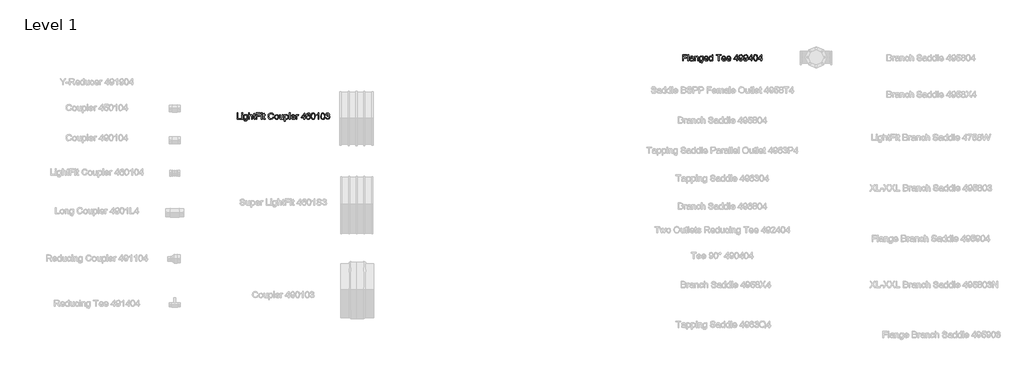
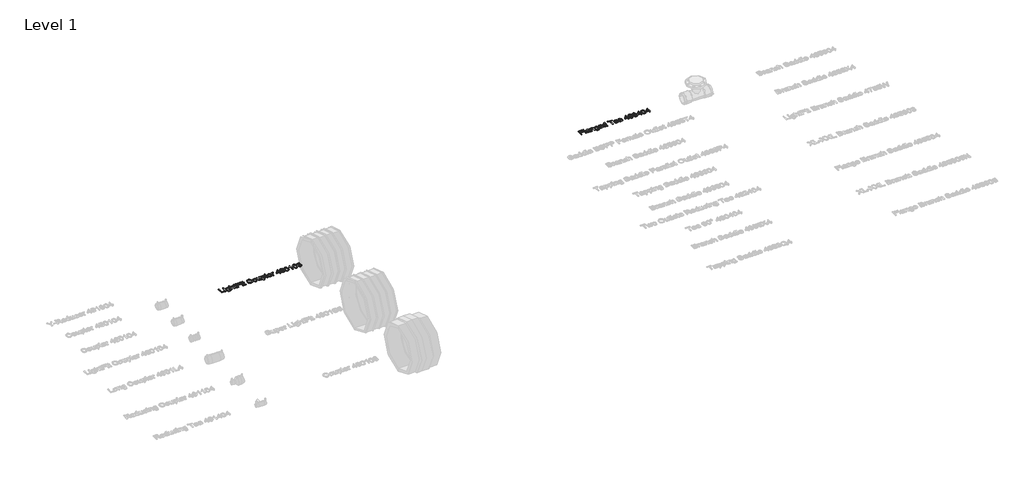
# One storey, part 7 of 38: 2 proxies.
"""IFC4 building model written with IfcOpenShell, lengths in millimetres."""

from ifc_helpers import new_model, si_unit, origin, origin_with_axes, place, context, project, spatial, polyline, outline, extrude, element, save

model = new_model("IFC4")

# Units and contexts
model_context = context("Model", 3, world=origin())
ifc_project = project(units=[si_unit("LENGTHUNIT", "METRE", prefix="MILLI")], contexts=[model_context])

# Site, building, storey
site = spatial("IfcSite", under=ifc_project)
building = spatial("IfcBuilding", under=site)
storey = spatial("IfcBuildingStorey", under=building, Name="Level 1", Elevation=0.0)

# Proxies
placement = place(None, origin())
element("IfcBuildingElementProxy", 1, Name="100 mm Arial", ObjectType="100 mm Arial", at=placement, inside=storey, context=model_context, shape_type="SweptSolid", body=[
    extrude(outline(polyline([(2545.1202247, 4394.3643675), (2545.1202247, 4453.4412905), (2552.5048401, 4453.4412905), (2552.5048401, 4401.7489828), (2582.0433016, 4401.7489828), (2582.0433016, 4394.3643675), (2545.1202247, 4394.3643675)])), origin_with_axes(), (0.0, 0.0, 1.0), 5.0),
    extrude(outline(polyline([(2589.427917, 4446.0566752), (2589.427917, 4453.4412905), (2596.8125324, 4453.4412905), (2596.8125324, 4446.0566752), (2589.427917, 4446.0566752)])), origin_with_axes(), (0.0, 0.0, 1.0), 5.0),
    extrude(outline(polyline([(2589.427917, 4394.3643675), (2589.427917, 4437.7489828), (2596.8125324, 4437.7489828), (2596.8125324, 4394.3643675), (2589.427917, 4394.3643675)])), origin_with_axes(), (0.0, 0.0, 1.0), 5.0),
    extrude(outline(polyline([(2606.0433016, 4390.6720598), (2613.427917, 4389.7489828), (2615.8221478, 4385.8547521), (2622.990417, 4384.2105213), (2630.5481093, 4386.0710982), (2634.1538786, 4391.2922521), (2634.6586863, 4399.902829), (2623.1202247, 4394.3643675), (2615.506643, 4395.9761463), (2609.8293593, 4400.8114828), (2605.1202247, 4416.2730213), (2607.2332055, 4427.7177328), (2613.3485901, 4435.8162905), (2622.7596478, 4438.6720598), (2629.3473882, 4437.0566752), (2634.6586863, 4432.2105213), (2634.6586863, 4437.7489828), (2642.0433016, 4437.7489828), (2642.0433016, 4400.2922521), (2640.0240709, 4385.9485021), (2633.6274363, 4379.277829), (2622.8461863, 4376.8259059), (2610.5649363, 4380.2802328), (2606.0433016, 4390.6720598)]), holes=[polyline([(2612.5048401, 4416.777829), (2615.6562824, 4405.3475405), (2623.5673401, 4401.7489828), (2631.4639747, 4405.3259059), (2634.6586863, 4416.5614828), (2631.3702247, 4427.5735021), (2623.4519555, 4431.2874444), (2615.6995516, 4427.6311944), (2612.5048401, 4416.777829)])]), origin_with_axes(), (0.0, 0.0, 1.0), 5.0),
    extrude(outline(polyline([(2653.1202247, 4394.3643675), (2653.1202247, 4453.4412905), (2660.5048401, 4453.4412905), (2660.5048401, 4431.7201367), (2666.2632536, 4436.934079), (2673.3558016, 4438.6720598), (2681.6490709, 4436.7754252), (2686.6827247, 4431.5326367), (2688.1971478, 4421.8259059), (2688.1971478, 4394.3643675), (2680.8125324, 4394.3643675), (2680.8125324, 4421.0614828), (2678.4615709, 4428.8499444), (2671.7981093, 4431.2874444), (2665.7476286, 4429.6432136), (2661.709167, 4425.1864828), (2660.5048401, 4417.4124444), (2660.5048401, 4394.3643675), (2653.1202247, 4394.3643675)])), origin_with_axes(), (0.0, 0.0, 1.0), 5.0),
    extrude(outline(polyline([(2714.0433016, 4400.5230213), (2714.9663786, 4394.1480213), (2709.4423401, 4393.4412905), (2703.2548401, 4394.6672521), (2700.1683016, 4397.8835982), (2699.2740709, 4406.2634059), (2699.2740709, 4430.3643675), (2693.7356093, 4430.3643675), (2693.7356093, 4437.7489828), (2699.2740709, 4437.7489828), (2699.2740709, 4448.2922521), (2706.6586863, 4452.6335982), (2706.6586863, 4437.7489828), (2714.0433016, 4437.7489828), (2714.0433016, 4430.3643675), (2706.6586863, 4430.3643675), (2706.6586863, 4406.4797521), (2707.0481093, 4402.6720598), (2708.3101286, 4401.3235021), (2710.8269555, 4400.8259059), (2714.0433016, 4400.5230213)])), origin_with_axes(), (0.0, 0.0, 1.0), 5.0),
    extrude(outline(polyline([(2722.3509939, 4394.3643675), (2722.3509939, 4453.4412905), (2762.0433016, 4453.4412905), (2762.0433016, 4446.0566752), (2729.7356093, 4446.0566752), (2729.7356093, 4428.5182136), (2757.427917, 4428.5182136), (2757.427917, 4421.1335982), (2729.7356093, 4421.1335982), (2729.7356093, 4394.3643675), (2722.3509939, 4394.3643675)])), origin_with_axes(), (0.0, 0.0, 1.0), 5.0),
    extrude(outline(polyline([(2771.2740709, 4394.3643675), (2771.2740709, 4437.7489828), (2778.6586863, 4437.7489828), (2778.6586863, 4394.3643675), (2771.2740709, 4394.3643675)])), origin_with_axes(), (0.0, 0.0, 1.0), 5.0),
    extrude(outline(polyline([(2771.2740709, 4446.0566752), (2771.2740709, 4453.4412905), (2778.6586863, 4453.4412905), (2778.6586863, 4446.0566752), (2771.2740709, 4446.0566752)])), origin_with_axes(), (0.0, 0.0, 1.0), 5.0),
    extrude(outline(polyline([(2805.427917, 4400.5230213), (2806.3509939, 4394.1480213), (2800.8269555, 4393.4412905), (2794.6394555, 4394.6672521), (2791.552917, 4397.8835982), (2790.6586863, 4406.2634059), (2790.6586863, 4430.3643675), (2785.1202247, 4430.3643675), (2785.1202247, 4437.7489828), (2790.6586863, 4437.7489828), (2790.6586863, 4448.2922521), (2798.0433016, 4452.6335982), (2798.0433016, 4437.7489828), (2805.427917, 4437.7489828), (2805.427917, 4430.3643675), (2798.0433016, 4430.3643675), (2798.0433016, 4406.4797521), (2798.4327247, 4402.6720598), (2799.6947439, 4401.3235021), (2802.2115709, 4400.8259059), (2805.427917, 4400.5230213)])), origin_with_axes(), (0.0, 0.0, 1.0), 5.0),
    extrude(outline(polyline([(2878.3509939, 4415.3643675), (2885.7356093, 4413.4605213), (2876.9808016, 4398.5686944), (2861.5192632, 4393.4412905), (2846.1514747, 4397.3210982), (2837.1370516, 4408.5566752), (2834.0433016, 4424.3499444), (2837.5408978, 4440.402829), (2847.4856093, 4450.809079), (2861.677917, 4454.3643675), (2876.4687824, 4449.7634059), (2884.8125324, 4436.8114828), (2877.427917, 4435.0518675), (2871.3702247, 4444.1311944), (2861.3894555, 4446.9797521), (2849.8365709, 4443.8210982), (2843.3101286, 4435.340329), (2841.427917, 4424.3643675), (2843.6562824, 4411.6432136), (2850.5937824, 4403.5158098), (2860.7836863, 4400.8259059), (2872.084167, 4404.4893675), (2878.3509939, 4415.3643675)])), origin_with_axes(), (0.0, 0.0, 1.0), 5.0),
    extrude(outline(polyline([(2893.1202247, 4416.0566752), (2894.7175805, 4426.5170117), (2899.5096478, 4433.8691752), (2912.5192632, 4438.6720598), (2920.2770757, 4437.2099203), (2926.4735901, 4432.8235021), (2930.5354891, 4425.8589588), (2931.8894555, 4416.6624444), (2929.4952247, 4403.5230213), (2922.521667, 4396.0879252), (2912.5192632, 4393.4412905), (2904.6677007, 4394.8980213), (2898.4783978, 4399.2682136), (2894.459768, 4406.3787905), (2893.1202247, 4416.0566752)]), holes=[polyline([(2900.5048401, 4416.0710982), (2903.9231093, 4404.6263867), (2912.5192632, 4400.8259059), (2921.0865709, 4404.6480213), (2924.5048401, 4416.3018675), (2921.0649363, 4427.4869636), (2912.5192632, 4431.2874444), (2903.9231093, 4427.5013867), (2900.5048401, 4416.0710982)])]), origin_with_axes(), (0.0, 0.0, 1.0), 5.0),
    extrude(outline(polyline([(2967.8894555, 4394.3643675), (2967.8894555, 4401.8210982), (2962.1058016, 4395.5362425), (2954.5625324, 4393.4412905), (2947.6178209, 4394.9124444), (2942.8293593, 4398.6047521), (2940.6298401, 4404.0422521), (2940.1971478, 4410.9076367), (2940.1971478, 4437.7489828), (2947.5817632, 4437.7489828), (2947.5817632, 4414.3835982), (2948.0288786, 4406.8547521), (2950.9495516, 4402.434079), (2956.4519555, 4400.8259059), (2962.6178209, 4402.4701367), (2966.6923401, 4406.9485021), (2967.8894555, 4415.1768675), (2967.8894555, 4437.7489828), (2975.2740709, 4437.7489828), (2975.2740709, 4394.3643675), (2967.8894555, 4394.3643675)])), origin_with_axes(), (0.0, 0.0, 1.0), 5.0),
    extrude(outline(polyline([(2985.427917, 4377.7489828), (2985.427917, 4437.7489828), (2992.8125324, 4437.7489828), (2992.8125324, 4430.5085982), (2997.9183016, 4436.6311944), (3004.8125324, 4438.6720598), (3014.1731093, 4435.8162905), (3020.2884939, 4427.7682136), (3022.3509939, 4416.3884059), (3020.021667, 4404.4244636), (3013.2572439, 4396.2754252), (3003.9183016, 4393.4412905), (2997.4928209, 4395.3379252), (2992.8125324, 4400.1335982), (2992.8125324, 4377.7489828), (2985.427917, 4377.7489828)]), holes=[polyline([(2992.8125324, 4415.7105213), (2996.0072439, 4404.4605213), (3003.7596478, 4400.8259059), (3011.6707055, 4404.590329), (3014.9663786, 4416.2585982), (3011.7500324, 4427.5374444), (3004.0625324, 4431.2874444), (2996.2235901, 4427.2994636), (2992.8125324, 4415.7105213)])]), origin_with_axes(), (0.0, 0.0, 1.0), 5.0),
    extrude(outline(polyline([(3030.6586863, 4394.3643675), (3030.6586863, 4453.4412905), (3038.0433016, 4453.4412905), (3038.0433016, 4394.3643675), (3030.6586863, 4394.3643675)])), origin_with_axes(), (0.0, 0.0, 1.0), 5.0),
    extrude(outline(polyline([(3079.4952247, 4407.2874444), (3086.7356093, 4406.3643675), (3079.9639747, 4396.8307136), (3067.3509939, 4393.4412905), (3058.6863305, 4394.90343), (3052.0192632, 4399.2898482), (3047.7680613, 4406.3156896), (3046.3509939, 4415.6960982), (3047.7824843, 4425.3920117), (3052.0769555, 4432.6432136), (3058.6538786, 4437.1648482), (3066.9327247, 4438.6720598), (3074.9537584, 4437.168454), (3081.3630132, 4432.6576367), (3085.5655372, 4425.4208578), (3086.9663786, 4415.7393675), (3086.9231093, 4413.7489828), (3053.7356093, 4413.7489828), (3057.9832055, 4404.1576367), (3067.4952247, 4400.8259059), (3074.7356093, 4402.3691752), (3079.4952247, 4407.2874444)]), holes=[polyline([(3053.7356093, 4421.1335982), (3079.5817632, 4421.1335982), (3076.6250324, 4427.8259059), (3066.9038786, 4431.2874444), (3057.8101286, 4428.5254252), (3053.7356093, 4421.1335982)])]), origin_with_axes(), (0.0, 0.0, 1.0), 5.0),
    extrude(outline(polyline([(3094.3509939, 4394.3643675), (3094.3509939, 4437.7489828), (3100.8125324, 4437.7489828), (3100.8125324, 4431.3307136), (3105.3990709, 4437.2441752), (3110.0144555, 4438.6720598), (3117.427917, 4436.3932136), (3114.9615709, 4429.7730213), (3109.7692632, 4431.2874444), (3105.5937824, 4429.8307136), (3102.9327247, 4425.7922521), (3101.7356093, 4417.1672521), (3101.7356093, 4394.3643675), (3094.3509939, 4394.3643675)])), origin_with_axes(), (0.0, 0.0, 1.0), 5.0),
    extrude(outline(polyline([(3167.2740709, 4394.3643675), (3167.2740709, 4408.2105213), (3140.5048401, 4408.2105213), (3140.5048401, 4415.5951367), (3169.1202247, 4452.5182136), (3174.6586863, 4452.5182136), (3174.6586863, 4415.5951367), (3182.0433016, 4415.5951367), (3182.0433016, 4408.2105213), (3174.6586863, 4408.2105213), (3174.6586863, 4394.3643675), (3167.2740709, 4394.3643675)]), holes=[polyline([(3167.2740709, 4415.5951367), (3167.2740709, 4438.4124444), (3149.5913786, 4415.5951367), (3167.2740709, 4415.5951367)])]), origin_with_axes(), (0.0, 0.0, 1.0), 5.0),
    extrude(outline(polyline([(3226.3509939, 4437.7489828), (3218.9663786, 4436.8259059), (3216.1683016, 4442.9845598), (3208.7692632, 4446.0566752), (3202.1058016, 4444.2682136), (3197.0649363, 4437.5542713), (3194.9663786, 4424.3932136), (3201.4783978, 4430.2850405), (3209.5481093, 4432.2105213), (3222.0961863, 4426.9460982), (3227.2740709, 4413.3451367), (3224.8365709, 4403.1552328), (3218.1298401, 4395.9436944), (3208.4519555, 4393.4412905), (3200.0739507, 4395.0999444), (3193.4014747, 4400.0759059), (3189.0366911, 4408.8595598), (3187.5817632, 4421.9412905), (3189.1971478, 4436.6492232), (3194.0433016, 4446.7057136), (3200.6598882, 4451.7573963), (3209.2308016, 4453.4412905), (3220.8990709, 4449.2730213), (3226.3509939, 4437.7489828)]), holes=[polyline([(3194.9663786, 4413.4605213), (3196.6755132, 4407.0638867), (3201.2187824, 4402.4196559), (3207.8750324, 4400.8259059), (3216.5793593, 4404.1287905), (3219.8894555, 4413.0999444), (3216.6226286, 4421.6888867), (3207.5721478, 4424.8259059), (3198.6370516, 4421.6888867), (3194.9663786, 4413.4605213)])]), origin_with_axes(), (0.0, 0.0, 1.0), 5.0),
    extrude(outline(polyline([(3233.7356093, 4423.4268675), (3235.9062824, 4440.4244636), (3242.3533978, 4450.2249444), (3253.1202247, 4453.4412905), (3261.7452247, 4451.5374444), (3267.7019555, 4446.0494636), (3271.1634939, 4437.309079), (3272.5048401, 4423.4268675), (3270.3558016, 4406.5013867), (3263.9303209, 4396.6792713), (3253.1202247, 4393.4412905), (3245.4471478, 4394.8475405), (3239.6202247, 4399.0662905), (3235.2067632, 4409.0578771), (3233.7356093, 4423.4268675)]), holes=[polyline([(3241.1202247, 4423.4412905), (3244.5817632, 4405.1023482), (3253.1202247, 4400.8259059), (3261.6586863, 4405.1167713), (3265.1202247, 4423.4412905), (3261.7740709, 4441.5710982), (3253.0336863, 4446.0566752), (3244.6971478, 4442.1047521), (3241.1202247, 4423.4412905)])]), origin_with_axes(), (0.0, 0.0, 1.0), 5.0),
    extrude(outline(polyline([(3306.6586863, 4394.3643675), (3299.2740709, 4394.3643675), (3299.2740709, 4440.402829), (3292.2788786, 4435.4196559), (3284.5048401, 4431.6912905), (3284.5048401, 4438.6720598), (3295.3293593, 4445.5807136), (3301.8990709, 4453.4412905), (3306.6586863, 4453.4412905), (3306.6586863, 4394.3643675)])), origin_with_axes(), (0.0, 0.0, 1.0), 5.0),
    extrude(outline(polyline([(3324.1971478, 4423.4268675), (3326.3678209, 4440.4244636), (3332.8149363, 4450.2249444), (3343.5817632, 4453.4412905), (3352.2067632, 4451.5374444), (3358.1634939, 4446.0494636), (3361.6250324, 4437.309079), (3362.9663786, 4423.4268675), (3360.8173401, 4406.5013867), (3354.3918593, 4396.6792713), (3343.5817632, 4393.4412905), (3335.9086863, 4394.8475405), (3330.0817632, 4399.0662905), (3325.6683016, 4409.0578771), (3324.1971478, 4423.4268675)]), holes=[polyline([(3331.5817632, 4423.4412905), (3335.0433016, 4405.1023482), (3343.5817632, 4400.8259059), (3352.1202247, 4405.1167713), (3355.5817632, 4423.4412905), (3352.2356093, 4441.5710982), (3343.4952247, 4446.0566752), (3335.1586863, 4442.1047521), (3331.5817632, 4423.4412905)])]), origin_with_axes(), (0.0, 0.0, 1.0), 5.0),
    extrude(outline(polyline([(3369.427917, 4410.0566752), (3376.8125324, 4410.9797521), (3380.8870516, 4403.2057136), (3388.5096478, 4400.8259059), (3397.4808016, 4404.0999444), (3400.8125324, 4412.2057136), (3397.5096478, 4419.8427328), (3389.115417, 4422.8643675), (3383.9375324, 4422.0566752), (3384.7596478, 4429.4412905), (3394.3221478, 4431.4749444), (3398.0433016, 4437.9941752), (3395.3461863, 4443.7706175), (3388.3942632, 4446.0566752), (3381.3558016, 4443.7489828), (3377.7356093, 4436.8259059), (3370.3509939, 4437.7489828), (3376.3942632, 4449.3307136), (3388.1346478, 4453.4412905), (3397.0408978, 4451.4148482), (3403.271667, 4445.8763867), (3405.427917, 4438.4268675), (3403.3798401, 4431.6191752), (3397.3221478, 4426.7297521), (3405.3702247, 4421.6816752), (3408.1971478, 4412.0759059), (3402.5433016, 4398.8643675), (3388.2500324, 4393.4412905), (3375.2981093, 4398.0710982), (3369.427917, 4410.0566752)])), origin_with_axes(), (0.0, 0.0, 1.0), 5.0),
])
element("IfcBuildingElementProxy", 2, Name="100 mm Arial", ObjectType="100 mm Arial", at=placement, inside=storey, context=model_context, shape_type="SweptSolid", body=[
    extrude(outline(polyline([(6689.6731533, 4937.5779735), (6689.6731533, 4996.6548966), (6729.365461, 4996.6548966), (6729.365461, 4989.2702812), (6697.0577687, 4989.2702812), (6697.0577687, 4971.7318197), (6724.7500764, 4971.7318197), (6724.7500764, 4964.3472043), (6697.0577687, 4964.3472043), (6697.0577687, 4937.5779735), (6689.6731533, 4937.5779735)])), origin_with_axes(), (0.0, 0.0, 1.0), 5.0),
    extrude(outline(polyline([(6738.5962303, 4937.5779735), (6738.5962303, 4996.6548966), (6745.9808456, 4996.6548966), (6745.9808456, 4937.5779735), (6738.5962303, 4937.5779735)])), origin_with_axes(), (0.0, 0.0, 1.0), 5.0),
    extrude(outline(polyline([(6784.7500764, 4943.1164351), (6777.5890187, 4938.1116274), (6769.677961, 4936.6548966), (6758.9544033, 4940.1597043), (6755.2116149, 4949.1164351), (6756.6250764, 4954.9577812), (6760.3390187, 4959.1981658), (6765.5096918, 4961.6212428), (6771.8991149, 4962.7318197), (6784.7068072, 4965.2702812), (6784.7500764, 4966.914512), (6782.7164226, 4972.3664351), (6774.552961, 4974.5010505), (6767.0818072, 4973.0803774), (6763.5193072, 4968.039512), (6756.1346918, 4968.9625889), (6759.3294033, 4976.1741274), (6765.7620956, 4980.4000889), (6775.5048841, 4981.8856658), (6784.4544033, 4980.5731658), (6789.5096918, 4977.2774928), (6791.7741149, 4972.2654735), (6792.1346918, 4965.8039351), (6792.1346918, 4956.6164351), (6792.5096918, 4943.7871082), (6793.9808456, 4937.5779735), (6786.5962303, 4937.5779735), (6784.7500764, 4943.1164351)]), holes=[polyline([(6784.7500764, 4957.8856658), (6772.8366149, 4955.6212428), (6766.4832495, 4954.4241274), (6763.6058456, 4952.477012), (6762.5962303, 4949.6356658), (6764.7957495, 4945.6404735), (6771.2500764, 4944.039512), (6778.7212303, 4945.8063389), (6783.538538, 4950.0827812), (6784.7068072, 4955.7943197), (6784.7500764, 4957.8856658)])]), origin_with_axes(), (0.0, 0.0, 1.0), 5.0),
    extrude(outline(polyline([(6802.288538, 4937.5779735), (6802.288538, 4980.9625889), (6809.6731533, 4980.9625889), (6809.6731533, 4974.9048966), (6815.319788, 4980.1404735), (6823.0289226, 4981.8856658), (6830.0024803, 4980.4794158), (6834.7620956, 4976.7871082), (6836.976038, 4971.3568197), (6837.365461, 4964.2173966), (6837.365461, 4937.5779735), (6829.9808456, 4937.5779735), (6829.9808456, 4963.2222043), (6829.1298841, 4969.7558582), (6826.1226726, 4973.2101851), (6821.052961, 4974.5010505), (6813.0409418, 4971.602012), (6809.6731533, 4960.5972043), (6809.6731533, 4937.5779735), (6802.288538, 4937.5779735)])), origin_with_axes(), (0.0, 0.0, 1.0), 5.0),
    extrude(outline(polyline([(6845.6731533, 4933.8856658), (6853.0577687, 4932.9625889), (6855.4519995, 4929.0683582), (6862.6202687, 4927.4241274), (6870.177961, 4929.2847043), (6873.7837303, 4934.5058582), (6874.288538, 4943.1164351), (6862.7500764, 4937.5779735), (6855.1364947, 4939.1897524), (6849.459211, 4944.0250889), (6844.7500764, 4959.4866274), (6846.8630572, 4970.9313389), (6852.9784418, 4979.0298966), (6862.3894995, 4981.8856658), (6868.9772399, 4980.2702812), (6874.288538, 4975.4241274), (6874.288538, 4980.9625889), (6881.6731533, 4980.9625889), (6881.6731533, 4943.5058582), (6879.6539226, 4929.1621082), (6873.257288, 4922.4914351), (6862.476038, 4920.039512), (6850.194788, 4923.4938389), (6845.6731533, 4933.8856658)]), holes=[polyline([(6852.1346918, 4959.9914351), (6855.2861341, 4948.5611466), (6863.1971918, 4944.9625889), (6871.0938264, 4948.539512), (6874.288538, 4959.7750889), (6871.0000764, 4970.7871082), (6863.0818072, 4974.5010505), (6855.3294033, 4970.8448005), (6852.1346918, 4959.9914351)])]), origin_with_axes(), (0.0, 0.0, 1.0), 5.0),
    extrude(outline(polyline([(6923.1250764, 4950.5010505), (6930.365461, 4949.5779735), (6923.5938264, 4940.0443197), (6910.9808456, 4936.6548966), (6902.3161822, 4938.117036), (6895.6491149, 4942.5034543), (6891.397913, 4949.5292957), (6889.9808456, 4958.9097043), (6891.412336, 4968.6056178), (6895.7068072, 4975.8568197), (6902.2837303, 4980.3784543), (6910.5625764, 4981.8856658), (6918.5836101, 4980.3820601), (6924.9928649, 4975.8712428), (6929.1953889, 4968.6344639), (6930.5962303, 4958.9529735), (6930.552961, 4956.9625889), (6897.365461, 4956.9625889), (6901.6130572, 4947.3712428), (6911.1250764, 4944.039512), (6918.365461, 4945.5827812), (6923.1250764, 4950.5010505)]), holes=[polyline([(6897.365461, 4964.3472043), (6923.2116149, 4964.3472043), (6920.2548841, 4971.039512), (6910.5337303, 4974.5010505), (6901.4399803, 4971.7390312), (6897.365461, 4964.3472043)])]), origin_with_axes(), (0.0, 0.0, 1.0), 5.0),
    extrude(outline(polyline([(6964.7500764, 4937.5779735), (6964.7500764, 4944.5443197), (6959.8642591, 4938.6272524), (6953.1106533, 4936.6548966), (6943.9664226, 4939.5106658), (6937.5048841, 4947.4794158), (6935.2116149, 4959.227012), (6937.3245956, 4970.9818197), (6943.6563264, 4979.0731658), (6953.0818072, 4981.8856658), (6959.8894995, 4979.8736466), (6964.7500764, 4974.6452812), (6964.7500764, 4996.6548966), (6972.1346918, 4996.6548966), (6972.1346918, 4937.5779735), (6964.7500764, 4937.5779735)]), holes=[polyline([(6942.5962303, 4959.2558582), (6945.927961, 4947.8255697), (6953.788538, 4944.039512), (6961.5553649, 4947.6524928), (6964.7500764, 4958.6933582), (6961.4976726, 4970.6789351), (6953.4856533, 4974.5010505), (6945.7116149, 4970.8303774), (6942.5962303, 4959.2558582)])]), origin_with_axes(), (0.0, 0.0, 1.0), 5.0),
    extrude(outline(polyline([(7021.9808456, 4937.5779735), (7021.9808456, 4989.2702812), (7002.5962303, 4989.2702812), (7002.5962303, 4996.6548966), (7048.7500764, 4996.6548966), (7048.7500764, 4989.2702812), (7029.365461, 4989.2702812), (7029.365461, 4937.5779735), (7021.9808456, 4937.5779735)])), origin_with_axes(), (0.0, 0.0, 1.0), 5.0),
    extrude(outline(polyline([(7086.5096918, 4950.5010505), (7093.7500764, 4949.5779735), (7086.9784418, 4940.0443197), (7074.365461, 4936.6548966), (7065.7007976, 4938.117036), (7059.0337303, 4942.5034543), (7054.7825283, 4949.5292957), (7053.365461, 4958.9097043), (7054.7969514, 4968.6056178), (7059.0914226, 4975.8568197), (7065.6683456, 4980.3784543), (7073.9471918, 4981.8856658), (7081.9682255, 4980.3820601), (7088.3774803, 4975.8712428), (7092.5800043, 4968.6344639), (7093.9808456, 4958.9529735), (7093.9375764, 4956.9625889), (7060.7500764, 4956.9625889), (7064.9976726, 4947.3712428), (7074.5096918, 4944.039512), (7081.7500764, 4945.5827812), (7086.5096918, 4950.5010505)]), holes=[polyline([(7060.7500764, 4964.3472043), (7086.5962303, 4964.3472043), (7083.6394995, 4971.039512), (7073.9183456, 4974.5010505), (7064.8245956, 4971.7390312), (7060.7500764, 4964.3472043)])]), origin_with_axes(), (0.0, 0.0, 1.0), 5.0),
    extrude(outline(polyline([(7131.740461, 4950.5010505), (7138.9808456, 4949.5779735), (7132.209211, 4940.0443197), (7119.5962303, 4936.6548966), (7110.9315668, 4938.117036), (7104.2644995, 4942.5034543), (7100.0132976, 4949.5292957), (7098.5962303, 4958.9097043), (7100.0277206, 4968.6056178), (7104.3221918, 4975.8568197), (7110.8991149, 4980.3784543), (7119.177961, 4981.8856658), (7127.1989947, 4980.3820601), (7133.6082495, 4975.8712428), (7137.8107735, 4968.6344639), (7139.2116149, 4958.9529735), (7139.1683456, 4956.9625889), (7105.9808456, 4956.9625889), (7110.2284418, 4947.3712428), (7119.740461, 4944.039512), (7126.9808456, 4945.5827812), (7131.740461, 4950.5010505)]), holes=[polyline([(7105.9808456, 4964.3472043), (7131.8269995, 4964.3472043), (7128.8702687, 4971.039512), (7119.1491149, 4974.5010505), (7110.0553649, 4971.7390312), (7105.9808456, 4964.3472043)])]), origin_with_axes(), (0.0, 0.0, 1.0), 5.0),
    extrude(outline(polyline([(7191.8269995, 4937.5779735), (7191.8269995, 4951.4241274), (7165.0577687, 4951.4241274), (7165.0577687, 4958.8087428), (7193.6731533, 4995.7318197), (7199.2116149, 4995.7318197), (7199.2116149, 4958.8087428), (7206.5962303, 4958.8087428), (7206.5962303, 4951.4241274), (7199.2116149, 4951.4241274), (7199.2116149, 4937.5779735), (7191.8269995, 4937.5779735)]), holes=[polyline([(7191.8269995, 4958.8087428), (7191.8269995, 4981.6260505), (7174.1443072, 4958.8087428), (7191.8269995, 4958.8087428)])]), origin_with_axes(), (0.0, 0.0, 1.0), 5.0),
    extrude(outline(polyline([(7213.9808456, 4952.3472043), (7221.365461, 4953.2702812), (7224.6827687, 4946.2246082), (7230.9712303, 4944.039512), (7236.9495956, 4945.445762), (7241.0024803, 4949.2029735), (7243.4183456, 4955.6212428), (7244.4856533, 4964.1885505), (7238.5361341, 4960.0347043), (7230.4375764, 4957.8856658), (7218.0986341, 4963.1356658), (7213.0577687, 4976.9673966), (7218.3438264, 4991.2462428), (7231.5914226, 4996.6548966), (7242.1130572, 4993.5683582), (7249.3534418, 4984.7702812), (7251.8269995, 4968.2414351), (7249.3606533, 4950.3063389), (7242.0265187, 4940.1452812), (7230.6250764, 4936.6548966), (7219.2741149, 4940.7726851), (7213.9808456, 4952.3472043)]), holes=[polyline([(7244.4423841, 4977.1404735), (7241.2548841, 4985.9962428), (7232.788538, 4989.2702812), (7223.9039226, 4985.7438389), (7220.4423841, 4976.6068197), (7223.7164226, 4968.4217235), (7232.5866149, 4965.2702812), (7241.1034418, 4968.4217235), (7244.4423841, 4977.1404735)])]), origin_with_axes(), (0.0, 0.0, 1.0), 5.0),
    extrude(outline(polyline([(7259.2116149, 4952.3472043), (7266.5962303, 4953.2702812), (7269.913538, 4946.2246082), (7276.2019995, 4944.039512), (7282.1803649, 4945.445762), (7286.2332495, 4949.2029735), (7288.6491149, 4955.6212428), (7289.7164226, 4964.1885505), (7283.7669033, 4960.0347043), (7275.6683456, 4957.8856658), (7263.3294033, 4963.1356658), (7258.288538, 4976.9673966), (7263.5745956, 4991.2462428), (7276.8221918, 4996.6548966), (7287.3438264, 4993.5683582), (7294.584211, 4984.7702812), (7297.0577687, 4968.2414351), (7294.5914226, 4950.3063389), (7287.257288, 4940.1452812), (7275.8558456, 4936.6548966), (7264.5048841, 4940.7726851), (7259.2116149, 4952.3472043)]), holes=[polyline([(7289.6731533, 4977.1404735), (7286.4856533, 4985.9962428), (7278.0193072, 4989.2702812), (7269.1346918, 4985.7438389), (7265.6731533, 4976.6068197), (7268.9471918, 4968.4217235), (7277.8173841, 4965.2702812), (7286.334211, 4968.4217235), (7289.6731533, 4977.1404735)])]), origin_with_axes(), (0.0, 0.0, 1.0), 5.0),
    extrude(outline(polyline([(7327.5193072, 4937.5779735), (7327.5193072, 4951.4241274), (7300.7500764, 4951.4241274), (7300.7500764, 4958.8087428), (7329.365461, 4995.7318197), (7334.9039226, 4995.7318197), (7334.9039226, 4958.8087428), (7342.288538, 4958.8087428), (7342.288538, 4951.4241274), (7334.9039226, 4951.4241274), (7334.9039226, 4937.5779735), (7327.5193072, 4937.5779735)]), holes=[polyline([(7327.5193072, 4958.8087428), (7327.5193072, 4981.6260505), (7309.8366149, 4958.8087428), (7327.5193072, 4958.8087428)])]), origin_with_axes(), (0.0, 0.0, 1.0), 5.0),
    extrude(outline(polyline([(7348.7500764, 4966.6404735), (7350.9207495, 4983.6380697), (7357.3678649, 4993.4385505), (7368.1346918, 4996.6548966), (7376.7596918, 4994.7510505), (7382.7164226, 4989.2630697), (7386.177961, 4980.5226851), (7387.5193072, 4966.6404735), (7385.3702687, 4949.7149928), (7378.944788, 4939.8928774), (7368.1346918, 4936.6548966), (7360.4616149, 4938.0611466), (7354.6346918, 4942.2798966), (7350.2212303, 4952.2714832), (7348.7500764, 4966.6404735)]), holes=[polyline([(7356.1346918, 4966.6548966), (7359.5962303, 4948.3159543), (7368.1346918, 4944.039512), (7376.6731533, 4948.3303774), (7380.1346918, 4966.6548966), (7376.788538, 4984.7847043), (7368.0481533, 4989.2702812), (7359.7116149, 4985.3183582), (7356.1346918, 4966.6548966)])]), origin_with_axes(), (0.0, 0.0, 1.0), 5.0),
    extrude(outline(polyline([(7417.9808456, 4937.5779735), (7417.9808456, 4951.4241274), (7391.2116149, 4951.4241274), (7391.2116149, 4958.8087428), (7419.8269995, 4995.7318197), (7425.365461, 4995.7318197), (7425.365461, 4958.8087428), (7432.7500764, 4958.8087428), (7432.7500764, 4951.4241274), (7425.365461, 4951.4241274), (7425.365461, 4937.5779735), (7417.9808456, 4937.5779735)]), holes=[polyline([(7417.9808456, 4958.8087428), (7417.9808456, 4981.6260505), (7400.2981533, 4958.8087428), (7417.9808456, 4958.8087428)])]), origin_with_axes(), (0.0, 0.0, 1.0), 5.0),
])

save(model, "model.ifc")
